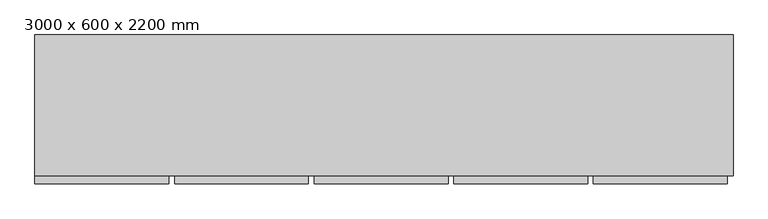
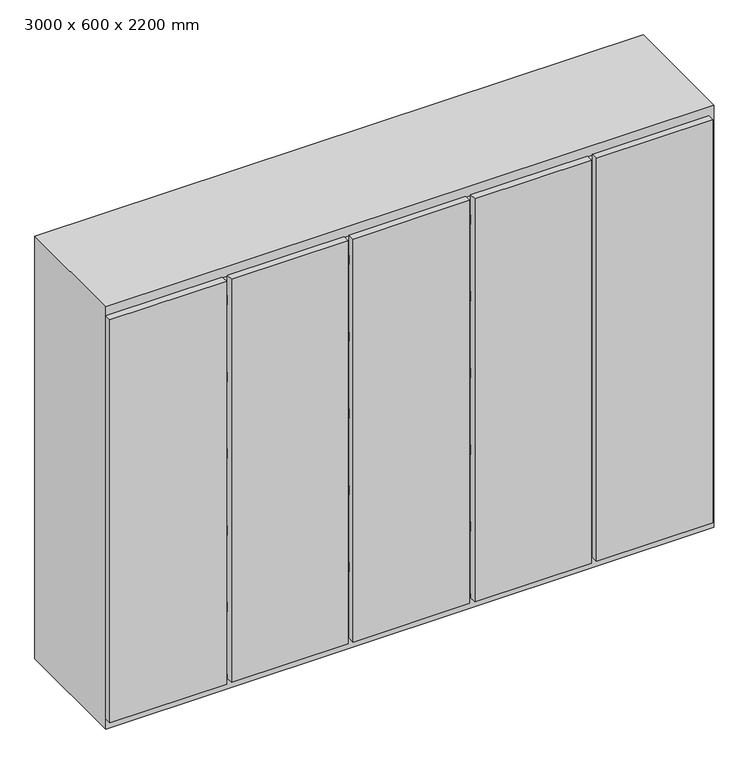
"""IFC4 building model written with IfcOpenShell, lengths in millimetres: furniture geometry, Shelved_closet_Armario_o_estanteria_Simple_y_paramtrico_14422 : 3000 x 600 x 2200 mm."""

from ifc_helpers import new_model, si_unit, frame, origin, place, context, project, spatial, polyline, outline, extrude, faceted_brep, source, transform, mapped, element, save


def furniture_3000_x_600_x_2200_mm_76b1559c(model_context):
    return source(origin(), model_context, "Body", "SolidModel", [
        extrude(outline(polyline([(1600.8, -654.8), (-1299.2, -654.8), (-1299.2, -54.8), (1600.8, -54.8), (1600.8, -654.8)])), frame((0.0, 0.0, 2000.0), z_axis=(0.0, 0.0, 1.0), x_axis=(1.0, 0.0, 0.0)), (0.0, 0.0, 1.0), 50.0),
        extrude(outline(polyline([(1600.8, -654.8), (-1299.2, -654.8), (-1299.2, -54.8), (1600.8, -54.8), (1600.8, -654.8)])), frame((0.0, 0.0, 1600.0), z_axis=(0.0, 0.0, 1.0), x_axis=(1.0, 0.0, 0.0)), (0.0, 0.0, 1.0), 50.0),
        extrude(outline(polyline([(1600.8, -654.8), (-1299.2, -654.8), (-1299.2, -54.8), (1600.8, -54.8), (1600.8, -654.8)])), frame((0.0, 0.0, 1200.0), z_axis=(0.0, 0.0, 1.0), x_axis=(1.0, 0.0, 0.0)), (0.0, 0.0, 1.0), 50.0),
        extrude(outline(polyline([(1600.8, -654.8), (-1299.2, -654.8), (-1299.2, -54.8), (1600.8, -54.8), (1600.8, -654.8)])), frame((0.0, 0.0, 800.0), z_axis=(0.0, 0.0, 1.0), x_axis=(1.0, 0.0, 0.0)), (0.0, 0.0, 1.0), 50.0),
        extrude(outline(polyline([(1600.8, -654.8), (-1299.2, -654.8), (-1299.2, -54.8), (1600.8, -54.8), (1600.8, -654.8)])), frame((0.0, 0.0, 400.0), z_axis=(0.0, 0.0, 1.0), x_axis=(1.0, 0.0, 0.0)), (0.0, 0.0, 1.0), 50.0),
        extrude(outline(polyline([(1050.0, -654.8), (1625.0, -654.8), (1625.0, -689.8), (1050.0, -689.8), (1050.0, -654.8)])), frame((0.0, 0.0, 54.2), z_axis=(0.0, 0.0, 1.0), x_axis=(1.0, 0.0, 0.0)), (0.0, 0.0, 1.0), 2100.0),
        extrude(outline(polyline([(450.0, -654.8), (1025.0, -654.8), (1025.0, -689.8), (450.0, -689.8), (450.0, -654.8)])), frame((0.0, 0.0, 54.2), z_axis=(0.0, 0.0, 1.0), x_axis=(1.0, 0.0, 0.0)), (0.0, 0.0, 1.0), 2100.0),
        extrude(outline(polyline([(-150.0, -654.8), (425.0, -654.8), (425.0, -689.8), (-150.0, -689.8), (-150.0, -654.8)])), frame((0.0, 0.0, 54.2), z_axis=(0.0, 0.0, 1.0), x_axis=(1.0, 0.0, 0.0)), (0.0, 0.0, 1.0), 2100.0),
        extrude(outline(polyline([(-750.0, -654.8), (-175.0, -654.8), (-175.0, -689.8), (-750.0, -689.8), (-750.0, -654.8)])), frame((0.0, 0.0, 54.2), z_axis=(0.0, 0.0, 1.0), x_axis=(1.0, 0.0, 0.0)), (0.0, 0.0, 1.0), 2100.0),
        extrude(outline(polyline([(-1350.0, -654.8), (-775.0, -654.8), (-775.0, -689.8), (-1350.0, -689.8), (-1350.0, -654.8)])), frame((0.0, 0.0, 54.2), z_axis=(0.0, 0.0, 1.0), x_axis=(1.0, 0.0, 0.0)), (0.0, 0.0, 1.0), 2100.0),
        faceted_brep([(1650.0, -654.8, 0.0), (1650.0, -654.8, 2200.0), (-1350.0, -654.8, 2200.0), (-1350.0, -654.8, 0.0), (1599.2, -654.8, 2149.2), (1599.2, -654.8, 76.2), (-1299.2, -654.8, 76.2), (-1299.2, -654.8, 2149.2), (1650.0, -49.8, 0.0), (1650.0, -49.8, 2200.0), (-1350.0, -49.8, 2200.0), (-1350.0, -49.8, 0.0), (1599.2, -84.8, 2149.2), (1599.2, -84.8, 76.2), (-1299.2, -84.8, 76.2), (-1299.2, -84.8, 2149.2)], [[[0, 1, 2, 3], [4, 5, 6, 7]], [[1, 0, 8, 9]], [[2, 1, 9, 10]], [[3, 2, 10, 11]], [[8, 0, 3, 11]], [[5, 4, 12, 13]], [[7, 6, 14, 15]], [[4, 7, 15, 12]], [[6, 5, 13, 14]], [[13, 12, 15, 14]], [[10, 9, 8, 11]]]),
    ])


if __name__ == "__main__":
    model = new_model("IFC4")
    model_context = context("Model", 3, world=origin())
    ifc_project = project(units=[si_unit("LENGTHUNIT", "METRE", prefix="MILLI")], contexts=[model_context])
    site = spatial("IfcSite", under=ifc_project)
    building = spatial("IfcBuilding", under=site)
    placement = place(None, origin())
    furniture_3000_x_600_x_2200_mm_shape = furniture_3000_x_600_x_2200_mm_76b1559c(model_context)
    element("IfcFurniture", 1, ObjectType="Shelved_closet_Armario_o_estanteria_Simple_y_paramtrico_14422 : 3000 x 600 x 2200 mm", at=placement, inside=building, context=model_context, shape_type="MappedRepresentation", body=[
        mapped(furniture_3000_x_600_x_2200_mm_shape, transform((0.0, 0.0, 0.0), x_axis=(1.0, 0.0, 0.0), y_axis=(0.0, 1.0, 0.0), z_axis=(0.0, 0.0, 1.0))),
    ])
    save(model, "model.ifc")
